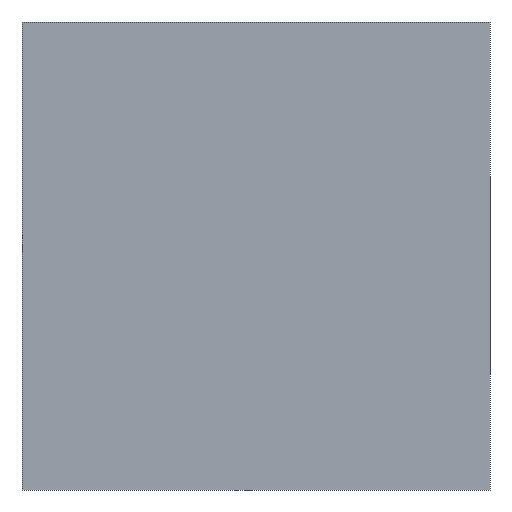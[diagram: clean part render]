
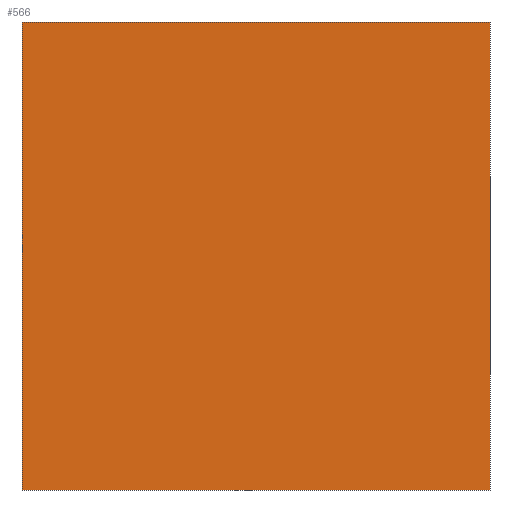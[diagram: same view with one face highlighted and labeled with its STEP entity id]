
A CAD part, front view. The second image highlights one B-rep face of the part: STEP entity #566.
In plain terms, the highlighted planar face has unit normal (0, -1, 0).
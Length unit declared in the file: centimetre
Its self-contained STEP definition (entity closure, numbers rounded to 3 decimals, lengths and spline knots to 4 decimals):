
#6 = EDGE_CURVE ( 'NONE', #73, #837, #788, .T. ) ;
#30 = CARTESIAN_POINT ( 'NONE',  ( 1000., 0., 1000. ) ) ;
#53 = VECTOR ( 'NONE', #806, 100. ) ;
#73 = VERTEX_POINT ( 'NONE', #30 ) ;
#94 = AXIS2_PLACEMENT_3D ( 'NONE', #340, #528, #208 ) ;
#125 = CARTESIAN_POINT ( 'NONE',  ( 1000., 0., 0. ) ) ;
#150 = EDGE_CURVE ( 'NONE', #397, #324, #300, .T. ) ;
#161 = CARTESIAN_POINT ( 'NONE',  ( 0., 0., 1000. ) ) ;
#208 = DIRECTION ( 'NONE',  ( 0., 0., 1. ) ) ;
#293 = LINE ( 'NONE', #548, #433 ) ;
#298 = DIRECTION ( 'NONE',  ( 1., 0., 0. ) ) ;
#300 = LINE ( 'NONE', #370, #53 ) ;
#324 = VERTEX_POINT ( 'NONE', #408 ) ;
#340 = CARTESIAN_POINT ( 'NONE',  ( 0., 0., 1000. ) ) ;
#361 = CARTESIAN_POINT ( 'NONE',  ( 0., 0., 0. ) ) ;
#370 = CARTESIAN_POINT ( 'NONE',  ( 0., 0., 1000. ) ) ;
#387 = ORIENTED_EDGE ( 'NONE', *, *, #702, .F. ) ;
#397 = VERTEX_POINT ( 'NONE', #161 ) ;
#399 = DIRECTION ( 'NONE',  ( 0., 0., -1. ) ) ;
#408 = CARTESIAN_POINT ( 'NONE',  ( 0., 0., 0. ) ) ;
#412 = EDGE_CURVE ( 'NONE', #324, #837, #818, .T. ) ;
#433 = VECTOR ( 'NONE', #298, 100. ) ;
#438 = DIRECTION ( 'NONE',  ( 1., 0., 0. ) ) ;
#474 = CARTESIAN_POINT ( 'NONE',  ( 1000., 0., 1000. ) ) ;
#508 = EDGE_LOOP ( 'NONE', ( #733, #760, #387, #521 ) ) ;
#521 = ORIENTED_EDGE ( 'NONE', *, *, #150, .T. ) ;
#528 = DIRECTION ( 'NONE',  ( 0., 1., 0. ) ) ;
#548 = CARTESIAN_POINT ( 'NONE',  ( 0., 0., 1000. ) ) ;
#566 = ADVANCED_FACE ( 'NONE', ( #591 ), #784, .F. ) ;
#591 = FACE_OUTER_BOUND ( 'NONE', #508, .T. ) ;
#702 = EDGE_CURVE ( 'NONE', #397, #73, #293, .T. ) ;
#733 = ORIENTED_EDGE ( 'NONE', *, *, #412, .T. ) ;
#753 = VECTOR ( 'NONE', #438, 100. ) ;
#756 = VECTOR ( 'NONE', #399, 100. ) ;
#760 = ORIENTED_EDGE ( 'NONE', *, *, #6, .F. ) ;
#784 = PLANE ( 'NONE',  #94 ) ;
#788 = LINE ( 'NONE', #474, #756 ) ;
#806 = DIRECTION ( 'NONE',  ( 0., 0., -1. ) ) ;
#818 = LINE ( 'NONE', #361, #753 ) ;
#837 = VERTEX_POINT ( 'NONE', #125 ) ;
